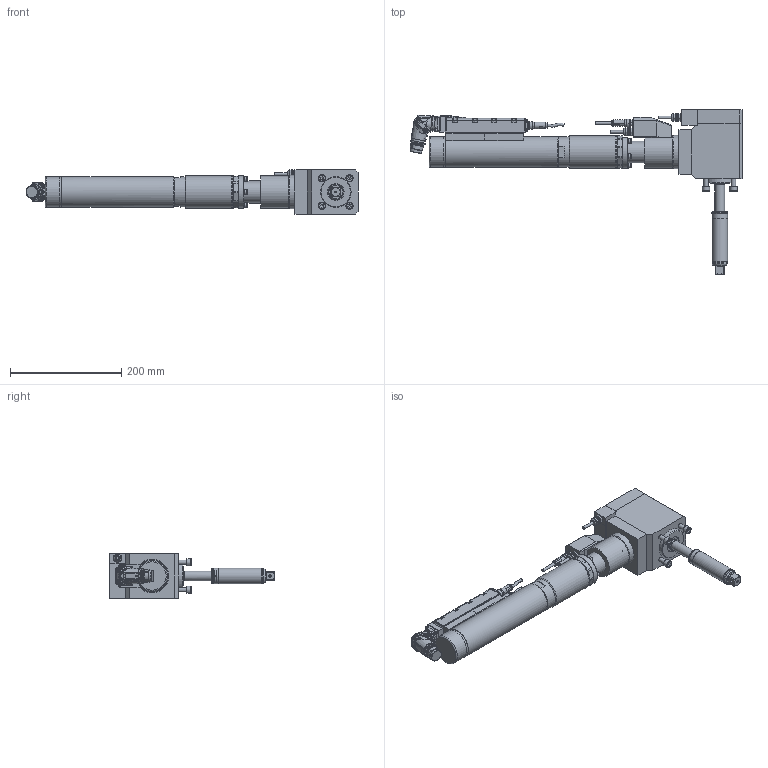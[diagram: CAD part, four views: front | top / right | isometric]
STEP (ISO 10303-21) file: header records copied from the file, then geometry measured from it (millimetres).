
FILE_DESCRIPTION (( 'STEP AP203' ), '1' );
FILE_NAME ('70082587_ESX222DRXWX270AWDX250-270.STEP', '2026-03-12T10:58:52', ( '' ), ( '' ), 'SwSTEP 2.0', 'SolidWorks 2020', '' );
FILE_SCHEMA (( 'CONFIG_CONTROL_DESIGN' ));
Length unit declared in the file: millimetre
Products named in the file (11): 7004768_3; 70082403; 70057493_3; 70210513; 70082306; 70057493_2; 70082306_ESX222_Standard_Winkel_2; 70082587_ESX222DRXWX270AWDX250-270; 70082293_2; 70057493_4; 70057493_Standard_winkel
Assembly tree (11 placements, depth 4):
  70082587_ESX222DRXWX270AWDX250-270
    70082306_ESX222_Standard_Winkel_2
      70082306
      70057493_Standard_winkel
        70057493_2
        70057493_3
        70057493_4
      70082293_2  x2
    70210513
    70082403
    7004768_3
Bounding box: 597.96 x 296.1 x 80 mm (x, y, z)
Volume: 2605402.3 mm3; surface area: 265993.7 mm2
Topology: 13 solids, 14 shells, 2845 faces, 7381 edges, 4775 vertices
Faces by surface type: plane 1362, cylinder 762, cone 374, bspline 269, torus 73, sphere 5
Full cylindrical faces by diameter (mm): 0.5 x14, 0.57 x14, 1.6 x1, 2 x3, 3 x4, 4.2 x11, 4.5 x1, 4.9 x5, 5 x35, 5.5 x12, 6 x2, 7 x2, 8 x4, 8.459 x2, 8.5 x5, 9 x7, 11.08 x3, 12 x1, 12.3 x3, 13 x4, 14 x6, 14.5 x2, 16.84 x1, 17.3 x1, 17.4 x1, 17.5 x1, 20 x2, 21.15 x1, 21.5 x1, 21.7 x1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
Entity records: 93867 total; most frequent: CARTESIAN_POINT 31478, ORIENTED_EDGE 13122, DIRECTION 11540, EDGE_CURVE 6561, VERTEX_POINT 4427, AXIS2_PLACEMENT_3D 4290, EDGE_LOOP 3286, VECTOR 2960
